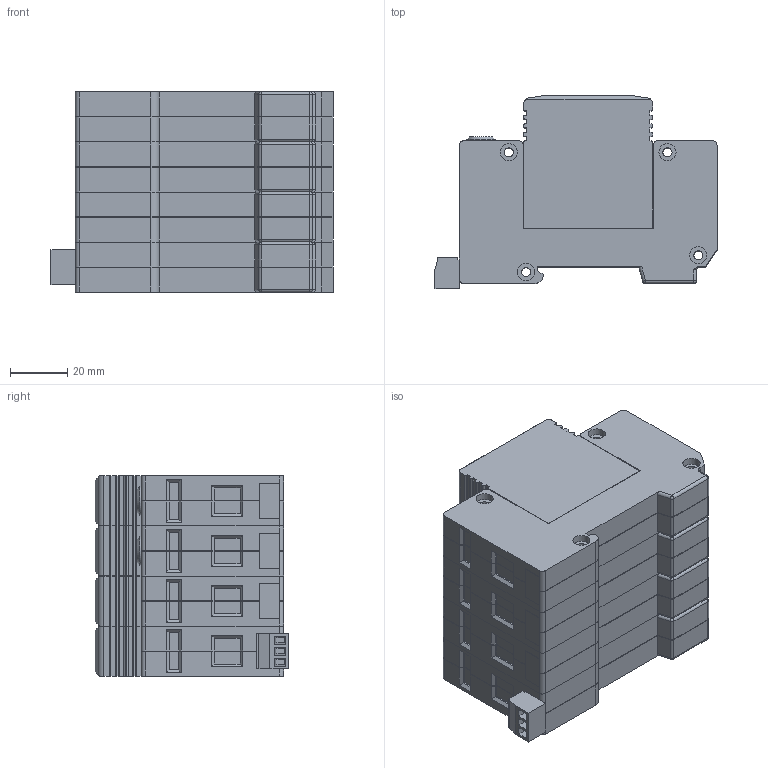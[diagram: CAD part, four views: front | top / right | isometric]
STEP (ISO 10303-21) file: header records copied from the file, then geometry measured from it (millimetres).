
FILE_DESCRIPTION(/* description */ (''),/* implementation_level */ '2;1');
FILE_NAME(/* name */ 'K:\PROJEKTY ROZPRACOVANÉ\MODELY DO KATALOGU\HSA, HLSA 24520, 10007\3D - STEP\HLSA 4+0 M S.stp',/* time_stamp */ '2020-03-17T07:37:45+01:00',/* author */ ('M Koliska'),/* organization */ (''),/* preprocessor_version */ 'ST-DEVELOPER v18',/* originating_system */ 'Autodesk Inventor 2020',/* authorisation */ '');
FILE_SCHEMA (('AUTOMOTIVE_DESIGN { 1 0 10303 214 3 1 1 }'));
Length unit declared in the file: millimetre
Products named in the file (12): HLSA 4+0 M S; HLSA M; HLSA M_1; HLSA M S; HLSA M S_1; KONEKTOR DEGSON 15EDGK 3.81; KONEKTOR SAMEC; ISO 2009 - M1,6 x 2,5; KONEKTOR DEGSON 15EDGRC 3.81 (OBRÁCENÉ VÝV
ODY); HLSA M (Z); HLSA M (Z)_1; DIN 7985 (H) - M5x6-H
Assembly tree (18 placements, depth 4):
  HLSA 4+0 M S
    HLSA M
      HLSA M_1
      DIN 7985 (H) - M5x6-H  x2
    HLSA M S
      HLSA M S_1
      DIN 7985 (H) - M5x6-H  x2
      KONEKTOR DEGSON 15EDGK 3.81
        KONEKTOR SAMEC
        ISO 2009 - M1,6 x 2,5  x3
      KONEKTOR DEGSON 15EDGRC 3.81 (OBRÁCENÉ VÝV
ODY)
    HLSA M (Z)  x2
      HLSA M (Z)_1
      DIN 7985 (H) - M5x6-H
Bounding box: 98.5 x 67.6 x 70 mm (x, y, z)
Volume: 336582.1 mm3; surface area: 83603.9 mm2
Topology: 15 solids, 15 shells, 1654 faces, 4567 edges, 3021 vertices
Faces by surface type: plane 1182, cylinder 314, cone 116, sphere 22, torus 20
Full cylindrical faces by diameter (mm): 0.968 x3, 1 x6, 1.171 x3, 1.6 x3, 1.9 x3, 2 x3, 2.5 x3, 3.2 x16, 4.6 x6, 5 x6, 6 x32, 10 x2
Entity records: 36598 total; most frequent: CARTESIAN_POINT 6465, ORIENTED_EDGE 6272, DIRECTION 6068, EDGE_CURVE 3136, LINE 2490, VECTOR 2490, VERTEX_POINT 2070, AXIS2_PLACEMENT_3D 1789
